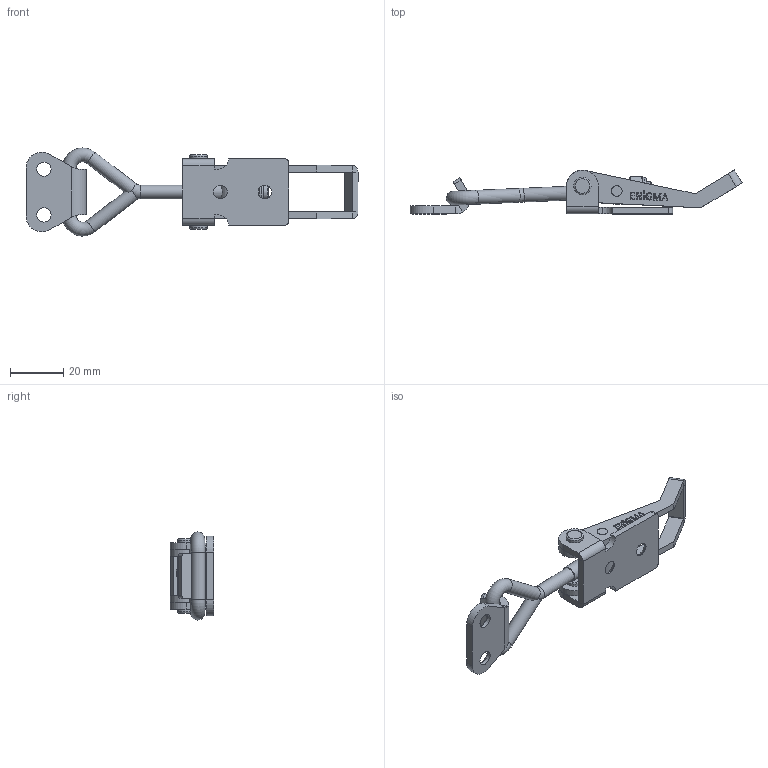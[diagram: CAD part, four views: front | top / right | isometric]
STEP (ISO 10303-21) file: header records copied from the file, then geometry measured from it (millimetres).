
FILE_DESCRIPTION (( 'STEP AP214' ), '1' );
FILE_NAME ('93706_Y.STEP', '2023-10-03T08:09:37', ( '' ), ( '' ), 'SwSTEP 2.0', 'SolidWorks 2023', '' );
FILE_SCHEMA (( 'AUTOMOTIVE_DESIGN' ));
Length unit declared in the file: millimetre
Products named in the file (8): M6_kanca bağlantı mili_Varsayılan; 93706_hareket kolu_Varsayılan; M6 fiberli Somun_Varsayılan; 93706_karşılık kancası_Varsayılan; m6_ucgen kancaa_Varsayılan; 93706_govde_Varsayılan; 93706_percin_Varsayılan; 93706_Y
Assembly tree (8 placements, depth 2):
  93706_Y
    93706_govde_Varsayılan
    93706_hareket kolu_Varsayılan
    93706_karşılık kancası_Varsayılan
    93706_percin_Varsayılan  x2
    M6_kanca bağlantı mili_Varsayılan
    m6_ucgen kancaa_Varsayılan
    M6 fiberli Somun_Varsayılan
Bounding box: 125.13 x 16.56 x 33.18 mm (x, y, z)
Volume: 12227.2 mm3; surface area: 11603.6 mm2
Topology: 8 solids, 8 shells, 348 faces, 870 edges, 560 vertices
Faces by surface type: plane 157, bspline 124, cylinder 50, cone 9, torus 8
Full cylindrical faces by diameter (mm): 4 x4, 5 x7, 5.1 x2, 5.2 x5, 5.4 x2, 6 x2, 6.5 x4, 9.584 x1, 10 x1
Entity records: 20567 total; most frequent: CARTESIAN_POINT 11017, ORIENTED_EDGE 1612, DIRECTION 1092, EDGE_CURVE 806, VERTEX_POINT 544, VECTOR 434, LINE 434, EDGE_LOOP 428
